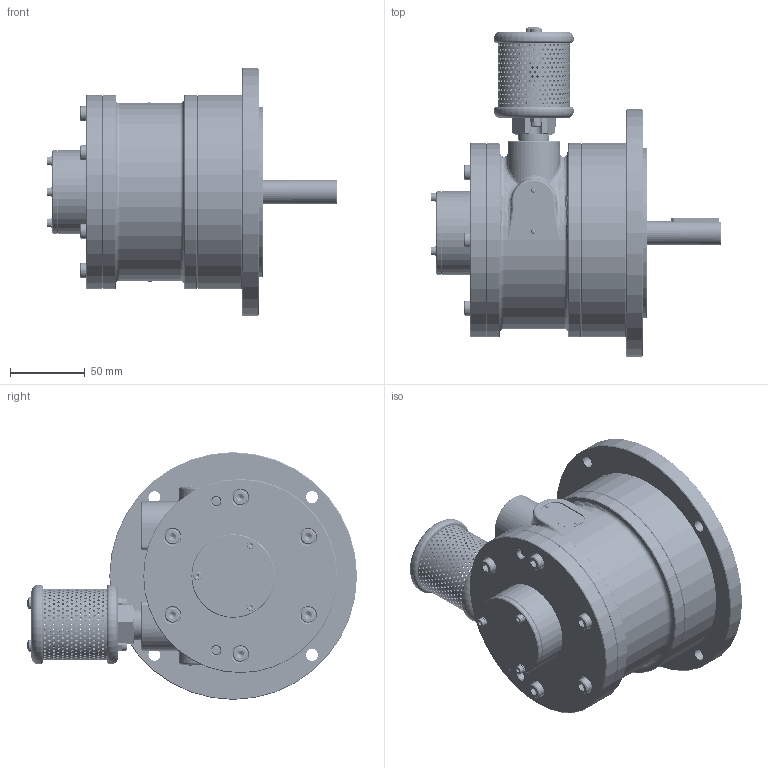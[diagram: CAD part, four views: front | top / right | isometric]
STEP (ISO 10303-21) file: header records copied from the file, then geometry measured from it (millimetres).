
FILE_DESCRIPTION (( 'STEP AP214' ), '1' );
FILE_NAME ('6VMN-Nema (Alu. End Plates)_23-04-26.STEP', '2026-04-24T05:53:11', ( '' ), ( '' ), 'SwSTEP 2.0', 'SolidWorks 2017', '' );
FILE_SCHEMA (( 'AUTOMOTIVE_DESIGN' ));
Length unit declared in the file: millimetre
Products named in the file (2): 6VMN-Nema (Alu. End Plates)_23-04-26
Bounding box: 194.55 x 221.2 x 166 mm (x, y, z)
Volume: 729916.8 mm3; surface area: 278662.8 mm2
Topology: 57 solids, 57 shells, 4091 faces, 10912 edges, 6897 vertices
Faces by surface type: cylinder 2327, cone 962, plane 631, torus 125, bspline 28, sphere 18
Entity records: 216479 total; most frequent: CARTESIAN_POINT 71656, ORIENTED_EDGE 21668, DIRECTION 18629, EDGE_CURVE 10834, AXIS2_PLACEMENT_3D 7227, VERTEX_POINT 6893, EDGE_LOOP 5733, LINE 4175
